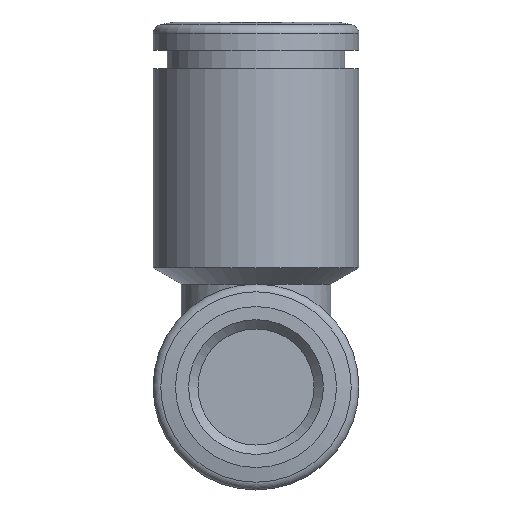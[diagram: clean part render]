
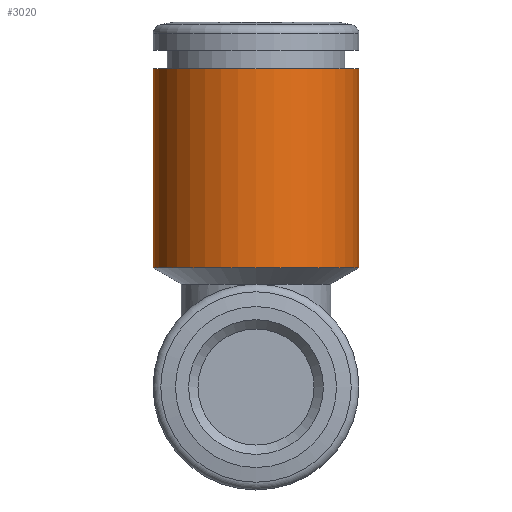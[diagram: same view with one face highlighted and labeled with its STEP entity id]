
A CAD part, left-side view. The second image highlights one B-rep face of the part: STEP entity #3020.
In plain terms, the highlighted cylindrical face has radius 5.5 mm (diameter 11 mm), a full revolution.
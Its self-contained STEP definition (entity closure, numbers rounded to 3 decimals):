
#3020=ADVANCED_FACE('', (#3030,#3040), #3050, .T.);
#9920=AXIS2_PLACEMENT_3D('Ax2Pl3d', #9930, #9940, #9950);
#9960=AXIS2_PLACEMENT_3D('Ax2Pl3d', #9970, #9980, #9990);
#10000=AXIS2_PLACEMENT_3D('Ax2Pl3d', #10010, #10020, #10030);
#9930=CARTESIAN_POINT('HicPkt', (23.12,0.,
20.912));
#13510=CARTESIAN_POINT('', (28.62,0.,
20.912));
#9970=CARTESIAN_POINT('HicPkt', (23.12,0.,
10.278));
#10010=CARTESIAN_POINT('HicPkt', (23.12,0.,
10.278));
#13520=CARTESIAN_POINT('', (28.62,0.,
10.278));
#14330=CIRCLE('Circle', #9920, 5.5);
#14340=CIRCLE('Circle', #10000, 5.5);
#3050=CYLINDRICAL_SURFACE('Zyl', #9960, 5.5);
#9940=DIRECTION('Axis', (0.,0.,-1.));
#9950=DIRECTION('RefDirection', (-1.,-0.,0.));
#9980=DIRECTION('Axis', (0.,0.,1.));
#9990=DIRECTION('RefDirection', (1.,0.,-0.));
#10020=DIRECTION('Axis', (0.,0.,-1.));
#10030=DIRECTION('RefDirection', (-1.,-0.,0.));
#19030=EDGE_CURVE('', #19040, #19040, #14330, .T.);
#19050=EDGE_CURVE('', #19060, #19060, #14340, .T.);
#22140=EDGE_LOOP('Edge_loop', (#22150));
#22160=EDGE_LOOP('Edge_loop', (#22170));
#3040=FACE_BOUND('', #22160, .T.);
#3030=FACE_OUTER_BOUND('Face_outer_bound', #22140, .T.);
#22150=ORIENTED_EDGE('', *, *, #19030, .T.);
#22170=ORIENTED_EDGE('', *, *, #19050, .F.);
#19040=VERTEX_POINT('', #13510);
#19060=VERTEX_POINT('', #13520);
